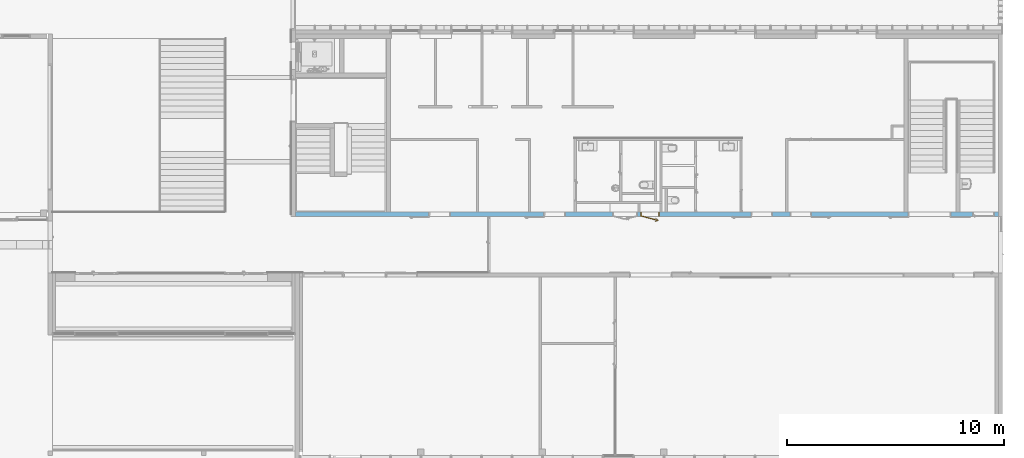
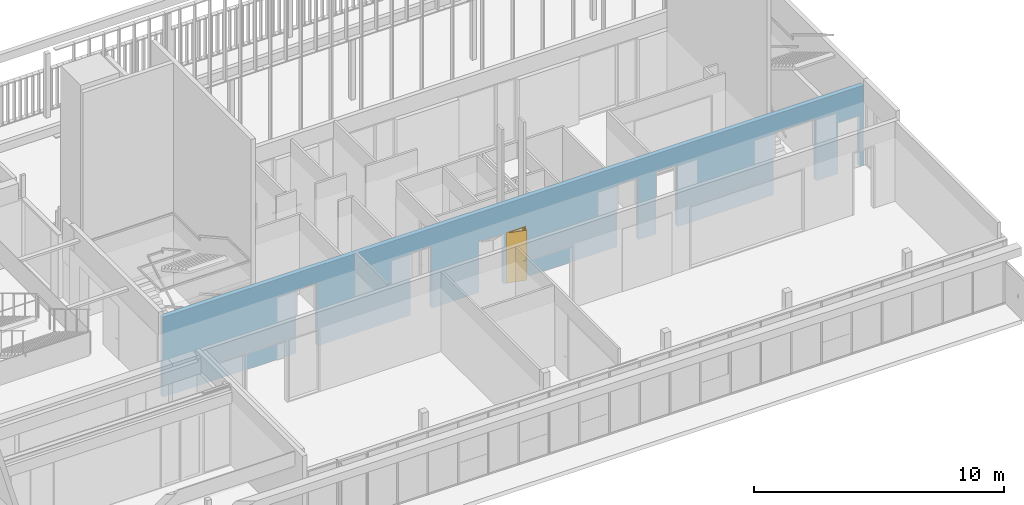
# One storey, part 167 of 240: 1 door, 8 openings, plus 1 element that does not belong to this part.
"""IFC2X3 building model written with IfcOpenShell, lengths in centimetres."""

from ifc_helpers import new_model, entity, si_unit, converted_unit, derived_unit, direction, frame, frame_2d, origin, place, context, subcontext, project, spatial, polyline, rectangle, extrude, clip, bounded_halfspace, faceted_brep, source, transform, mapped, material, material_list, layer, layer_set, layer_usage, type_object, type_shapes, element, fill, save


model = new_model("IFC2X3")

# Units and contexts
model_context = context("Model", 3, precision=0.001, world=origin(), true_north=direction((6.12303176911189e-17, 1.0)))
body_context = subcontext(model_context, "Body", "Model", "MODEL_VIEW")
ifc_project = project(units=[si_unit("LENGTHUNIT", "METRE", prefix="CENTI"), si_unit("AREAUNIT", "SQUARE_METRE"), si_unit("VOLUMEUNIT", "CUBIC_METRE"), converted_unit("PLANEANGLEUNIT", "DEGREE", entity("IfcRatioMeasure", 0.0174532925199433), si_unit("PLANEANGLEUNIT", "RADIAN"), dimensions=[0, 0, 0, 0, 0, 0, 0]), si_unit("MASSUNIT", "GRAM", prefix="KILO"), derived_unit("MASSDENSITYUNIT", [(si_unit("MASSUNIT", "GRAM", prefix="KILO"), 1), (si_unit("LENGTHUNIT", "METRE"), -3)]), si_unit("TIMEUNIT", "SECOND"), si_unit("FREQUENCYUNIT", "HERTZ"), si_unit("THERMODYNAMICTEMPERATUREUNIT", "DEGREE_CELSIUS"), derived_unit("THERMALTRANSMITTANCEUNIT", [(si_unit("MASSUNIT", "GRAM", prefix="KILO"), 1), (si_unit("THERMODYNAMICTEMPERATUREUNIT", "KELVIN"), -1), (si_unit("TIMEUNIT", "SECOND"), -3)]), derived_unit("VOLUMETRICFLOWRATEUNIT", [(si_unit("LENGTHUNIT", "METRE"), 3), (si_unit("TIMEUNIT", "SECOND"), -1)]), si_unit("ELECTRICCURRENTUNIT", "AMPERE"), si_unit("ELECTRICVOLTAGEUNIT", "VOLT"), si_unit("POWERUNIT", "WATT"), si_unit("FORCEUNIT", "NEWTON", prefix="KILO"), si_unit("ILLUMINANCEUNIT", "LUX"), si_unit("LUMINOUSFLUXUNIT", "LUMEN"), si_unit("LUMINOUSINTENSITYUNIT", "CANDELA"), derived_unit("USERDEFINED", [(si_unit("MASSUNIT", "GRAM", prefix="KILO"), -1), (si_unit("LENGTHUNIT", "METRE"), -2), (si_unit("TIMEUNIT", "SECOND"), 3), (si_unit("LUMINOUSFLUXUNIT", "LUMEN"), 1)]), derived_unit("LINEARVELOCITYUNIT", [(si_unit("LENGTHUNIT", "METRE"), 1), (si_unit("TIMEUNIT", "SECOND"), -1)]), si_unit("PRESSUREUNIT", "PASCAL"), derived_unit("USERDEFINED", [(si_unit("LENGTHUNIT", "METRE"), -2), (si_unit("MASSUNIT", "GRAM", prefix="KILO"), 1), (si_unit("TIMEUNIT", "SECOND"), -2)])], contexts=[model_context])

# Site, building, storey
site_placement = place(None, frame((-2781.94577612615, 7442.24238424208, 0.0)))
site = spatial("IfcSite", under=ifc_project, at=site_placement, Name="Default", CompositionType="ELEMENT")
building_placement = place(site_placement, origin())
building = spatial("IfcBuilding", under=site, at=building_placement, CompositionType="ELEMENT")
storey_placement = place(building_placement, origin())
storey = spatial("IfcBuildingStorey", under=building, at=storey_placement, Name="N00 - COO", CompositionType="ELEMENT", Elevation=0.0)

# Wall, openings, door
ifc_material_1 = material(Name="01 - Maçonnerie")
ifc_layer = layer(ifc_material_1, 20.0)
ifc_layer_set = layer_set([ifc_layer], Name="Mur de base:04 - Structure - béton - 20cm")
ifc_layer_usage = layer_usage(ifc_layer_set, "AXIS2", "NEGATIVE", 10.0)
wall_type = type_object("IfcWallType", Name="Mur de base:04 - Structure - béton - 20cm", PredefinedType="STANDARD", material=ifc_layer_set)
wall_placement = place(building_placement, frame((-3647.99987968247, -1920.07903364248, 0.0)))
wall = element("IfcWallStandardCase", 1, at=wall_placement, inside=storey, type_object=wall_type, material=ifc_layer_usage, Name="Mur de base:04 - Structure - béton - 20cm", ObjectType="Mur de base:04 - Structure - béton - 20cm", context=body_context, shape_type="Clipping", body=[
    clip(extrude(rectangle(XDim=3237.99999684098, YDim=19.9999999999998, at=frame_2d((1618.99999842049, -2.66453525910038e-15), x_axis=(-1.0, 0.0))), origin(), (0.0, 0.0, 1.0), 391.0), bounded_halfspace(frame((0.0, -10.0, 391.0), z_axis=(0.0, 0.0, -1.0), x_axis=(0.0, 1.0, 0.0)), True, frame((0.0, -10.0, 391.0)), polyline([(0.0, 0.0), (3238.0, 0.0), (3238.0, 20.0), (3062.69999684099, 20.0), (3042.69999684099, 20.0), (2268.49999684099, 20.0), (2258.49999684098, 20.0), (2058.49999684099, 20.0), (2048.49999684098, 20.0), (1848.49999684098, 20.0), (1838.49999684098, 20.0), (1713.49999684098, 20.0), (1703.49999684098, 20.0), (1293.99999684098, 20.0), (1283.99999684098, 20.0), (1083.99999684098, 20.0), (1073.99999684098, 20.0), (843.999996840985, 20.0), (833.999996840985, 20.0), (438.699996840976, 20.0), (0.0, 20.0), (0.0, 0.0)]))),
])
opening_1_placement = place(wall_placement, frame((3019.69999684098, 10.0, 0.0)))
element("IfcOpeningElement", 2, at=opening_1_placement, cuts=wall, Name="Int. Double:PP (1.90m x 3.00m):1", ObjectType="Opening", context=body_context, shape_type="SweptSolid", body=[
    extrude(rectangle(XDim=304.500000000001, YDim=197.0, at=frame_2d((152.250000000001, 98.5), x_axis=(1.0, 0.0))), frame((0.0, 0.0, 0.0), z_axis=(0.0, -1.0, 0.0), x_axis=(0.0, 0.0, 1.0)), (0.0, 0.0, 1.0), 20.0),
])
opening_2_placement = place(wall_placement, frame((1243.99999684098, 10.0, 0.0)))
element("IfcOpeningElement", 3, at=opening_2_placement, cuts=wall, Name="Int. Simple:PV (0.93m x 3.00m):1", ObjectType="Opening", context=body_context, shape_type="SweptSolid", body=[
    extrude(rectangle(XDim=304.500000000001, YDim=99.9999999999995, at=frame_2d((152.250000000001, 49.9999999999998), x_axis=(1.0, 0.0))), frame((0.0, 0.0, 0.0), z_axis=(0.0, -1.0, 0.0), x_axis=(0.0, 0.0, 1.0)), (0.0, 0.0, 1.0), 20.0),
])
opening_3_placement = place(wall_placement, frame((2198.49999684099, 10.0, 0.0)))
element("IfcOpeningElement", 4, at=opening_3_placement, cuts=wall, Name="Int. Simple:PV (0.93m x 3.00m):1", ObjectType="Opening", context=body_context, shape_type="SweptSolid", body=[
    extrude(rectangle(XDim=304.500000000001, YDim=99.9999999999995, at=frame_2d((152.250000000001, 49.9999999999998), x_axis=(1.0, 0.0))), frame((0.0, 0.0, 0.0), z_axis=(0.0, -1.0, 0.0), x_axis=(0.0, 0.0, 1.0)), (0.0, 0.0, 1.0), 20.0),
])
opening_4_placement = place(wall_placement, frame((713.999996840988, 10.0, 0.0)))
element("IfcOpeningElement", 5, at=opening_4_placement, cuts=wall, Name="Int. Simple:PP (0.93m x 3.06m):1", ObjectType="Opening", context=body_context, shape_type="SweptSolid", body=[
    extrude(rectangle(XDim=309.500000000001, YDim=99.9999999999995, at=frame_2d((154.750000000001, 49.9999999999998), x_axis=(1.0, 0.0))), frame((0.0, 0.0, 0.0), z_axis=(0.0, -1.0, 0.0), x_axis=(0.0, 0.0, 1.0)), (0.0, 0.0, 1.0), 20.0),
])
opening_5_placement = place(wall_placement, frame((1576.99999684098, 10.0, 0.0)))
element("IfcOpeningElement", 6, at=opening_5_placement, cuts=wall, Name="Int. Double:PP Placard (1.10m x 2.50m):1", ObjectType="Opening", context=body_context, shape_type="SweptSolid", body=[
    extrude(rectangle(XDim=248.500000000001, YDim=117.0, at=frame_2d((124.250000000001, 58.5000000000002), x_axis=(1.0, 0.0))), frame((0.0, 0.0, 0.0), z_axis=(0.0, -1.0, 0.0), x_axis=(0.0, 0.0, 1.0)), (0.0, 0.0, 1.0), 20.0),
])
opening_6_placement = place(wall_placement, frame((1677.0, 10.0, 0.0)))
opening_6 = element("IfcOpeningElement", 7, at=opening_6_placement, cuts=wall, Name="Int. Simple:PP Placard (0.80m x 2.50m):1", ObjectType="Opening", context=body_context, shape_type="SweptSolid", body=[
    extrude(rectangle(XDim=248.500000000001, YDim=86.9999999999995, at=frame_2d((124.250000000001, 43.4999999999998), x_axis=(1.0, 0.0))), frame((0.0, 0.0, 0.0), z_axis=(0.0, -1.0, 0.0), x_axis=(0.0, 0.0, 1.0)), (0.0, 0.0, 1.0), 20.0),
])
opening_7_placement = place(wall_placement, frame((2378.49999684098, 10.0, 0.0)))
element("IfcOpeningElement", 8, at=opening_7_placement, cuts=wall, Name="Int. Simple:PV (0.93m x 3.00m):1", ObjectType="Opening", context=body_context, shape_type="SweptSolid", body=[
    extrude(rectangle(XDim=304.500000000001, YDim=99.9999999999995, at=frame_2d((152.250000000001, 49.9999999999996), x_axis=(1.0, 0.0))), frame((0.0, 0.0, 0.0), z_axis=(0.0, -1.0, 0.0), x_axis=(0.0, 0.0, 1.0)), (0.0, 0.0, 1.0), 20.0),
])
opening_8_placement = place(wall_placement, frame((3220.0, 10.0, 0.0)))
element("IfcOpeningElement", 9, at=opening_8_placement, cuts=wall, Name="Int. Simple:PP simple (0.93m x 2.50m):1", ObjectType="Opening", context=body_context, shape_type="SweptSolid", body=[
    extrude(rectangle(XDim=248.500000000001, YDim=99.9999999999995, at=frame_2d((124.250000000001, 49.9999999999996), x_axis=(1.0, 0.0))), frame((0.0, 0.0, 0.0), z_axis=(0.0, -1.0, 0.0), x_axis=(0.0, 0.0, 1.0)), (0.0, 0.0, 1.0), 20.0),
])
ifc_material_2 = material(Name="Finition Peinture - Blanc satiné")
ifc_material_3 = material(Name="Bois - Panneau de porte")
ifc_material_4 = material(Name="Bois - Cadre de porte")
ifc_material_list_1 = material_list([ifc_material_2, ifc_material_3, ifc_material_4])
ifc_material_list_2 = material_list([ifc_material_2, ifc_material_3, ifc_material_4])
door_style = type_object("IfcDoorStyle", Name="PP Placard (0.80m x 2.50m)", ConstructionType="NOTDEFINED", OperationType="SINGLE_SWING_RIGHT", ParameterTakesPrecedence=False, Sizeable=False, material=ifc_material_list_2)
shared_shape = source(origin(), body_context, "Body", "Brep", [
    faceted_brep([(83.7809532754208, -20.1532103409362, 87.0), (83.7809532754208, -20.1532103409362, 108.0), (82.8491016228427, -19.9035214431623, 108.399601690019), (81.8491016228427, -19.6355722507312, 108.535898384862), (80.8491016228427, -19.3676230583, 108.399601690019), (79.9172499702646, -19.1179341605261, 108.0), (79.9172499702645, -19.1179341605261, 87.0), (80.8491016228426, -19.3676230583, 86.6003983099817), (81.8491016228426, -19.6355722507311, 86.464101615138), (82.8491016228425, -19.9035214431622, 86.6003983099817), (83.910362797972, -19.6702474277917, 108.0), (83.9103627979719, -19.6702474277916, 87.0), (82.9785111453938, -19.4205585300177, 86.6003983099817), (81.9785111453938, -19.1526093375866, 86.464101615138), (80.9785111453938, -18.8846601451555, 86.6003983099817), (80.0466594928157, -18.6349712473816, 87.0), (80.0466594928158, -18.6349712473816, 108.0), (80.978511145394, -18.8846601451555, 108.399601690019), (81.9785111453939, -19.1526093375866, 108.535898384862), (82.9785111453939, -19.4205585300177, 108.399601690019)], [[[0, 1, 2, 3, 4, 5, 6, 7, 8, 9]], [[10, 11, 12, 13, 14, 15, 16, 17, 18, 19]], [[9, 12, 11, 0]], [[8, 13, 12, 9]], [[7, 14, 13, 8]], [[7, 6, 15, 14]], [[15, 6, 5, 16]], [[4, 17, 16, 5]], [[3, 18, 17, 4]], [[2, 19, 18, 3]], [[2, 1, 10, 19]], [[11, 10, 1, 0]]]),
    faceted_brep([(84.9456389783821, -15.8065441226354, 87.0), (84.9456389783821, -15.8065441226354, 108.0), (84.013787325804, -15.5568552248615, 108.399601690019), (83.013787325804, -15.2889060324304, 108.535898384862), (82.0137873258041, -15.0209568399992, 108.399601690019), (81.0819356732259, -14.7712679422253, 108.0), (81.0819356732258, -14.7712679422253, 87.0), (82.0137873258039, -15.0209568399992, 86.6003983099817), (83.0137873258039, -15.2889060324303, 86.464101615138), (84.0137873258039, -15.5568552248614, 86.6003983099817), (83.1431968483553, -14.8059431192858, 108.535898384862), (84.1431968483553, -15.0738923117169, 108.399601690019), (85.0750485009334, -15.3235812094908, 108.0), (85.0750485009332, -15.3235812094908, 87.0), (84.1431968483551, -15.0738923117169, 86.6003983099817), (83.1431968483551, -14.8059431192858, 86.464101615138), (82.1431968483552, -14.5379939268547, 86.6003983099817), (81.211345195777, -14.2883050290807, 87.0), (81.2113451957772, -14.2883050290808, 108.0), (82.1431968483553, -14.5379939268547, 108.399601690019)], [[[0, 1, 2, 3, 4, 5, 6, 7, 8, 9]], [[10, 11, 12, 13, 14, 15, 16, 17, 18, 19]], [[4, 19, 18, 5]], [[3, 10, 19, 4]], [[2, 11, 10, 3]], [[2, 1, 12, 11]], [[13, 12, 1, 0]], [[9, 14, 13, 0]], [[8, 15, 14, 9]], [[7, 16, 15, 8]], [[7, 6, 17, 16]], [[17, 6, 5, 18]]]),
    faceted_brep([(81.6534727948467, -19.5831536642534, 100.778044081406), (82.0447304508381, -19.6879908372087, 100.778044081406), (82.4286571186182, -19.7908636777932, 100.699999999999), (82.4286571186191, -19.7908636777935, 99.2999999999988), (82.0447304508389, -19.687990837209, 99.221955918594), (81.6534727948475, -19.5831536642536, 99.2219559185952), (81.2695461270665, -19.4802808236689, 99.3000000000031), (81.2695461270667, -19.4802808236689, 100.7), (81.3716825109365, -22.1998399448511, 100.778044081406), (81.7129978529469, -22.4617404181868, 100.7), (81.0238498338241, -21.9329385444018, 100.778044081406), (79.3488766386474, -22.8999847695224, 100.778044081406), (79.4061036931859, -23.3346674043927, 100.778044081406), (80.682534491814, -21.6710380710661, 100.7), (80.6825344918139, -21.671038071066, 99.3000000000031), (81.0238498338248, -21.9329385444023, 99.2219559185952), (81.3716825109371, -22.1998399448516, 99.221955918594), (79.406103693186, -23.3346674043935, 99.221955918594), (79.3488766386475, -22.8999847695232, 99.2219559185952), (81.7129978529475, -22.4617404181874, 99.2999999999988), (79.4622584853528, -23.7612053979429, 100.7), (79.2927218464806, -22.4734467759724, 100.7), (79.2927218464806, -22.4734467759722, 99.3000000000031), (79.4622584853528, -23.7612053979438, 99.2999999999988), (70.9967463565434, -21.4928782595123, 100.7), (71.0996191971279, -21.1089515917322, 100.778044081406), (71.2044563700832, -20.7176939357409, 100.778044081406), (71.3073292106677, -20.3337672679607, 100.699999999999), (71.3073292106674, -20.3337672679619, 99.3000000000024), (71.204456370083, -20.7176939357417, 99.2219559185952), (71.0996191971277, -21.108951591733, 99.221955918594), (70.9967463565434, -21.4928782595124, 99.2999999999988), (75.2242479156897, -22.0044681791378, 100.78786867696), (75.6052695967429, -22.727728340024, 100.7), (75.3000255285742, -21.4036070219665, 100.7), (75.3000255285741, -21.4036070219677, 99.3000000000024), (75.2242479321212, -22.0044681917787, 99.2121313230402), (75.6052703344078, -22.7277285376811, 99.2999999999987)], [[[0, 1, 2, 3, 4, 5, 6, 7]], [[2, 1, 8, 9]], [[1, 0, 10, 11, 12, 8]], [[0, 7, 13, 10]], [[14, 13, 7, 6]], [[5, 15, 14, 6]], [[5, 4, 16, 17, 18, 15]], [[3, 19, 16, 4]], [[9, 19, 3, 2]], [[9, 8, 12, 20]], [[10, 13, 21, 11]], [[22, 21, 13, 14]], [[14, 15, 18, 22]], [[16, 19, 23, 17]], [[20, 23, 19, 9]], [[24, 25, 26, 27, 28, 29, 30, 31]], [[32, 25, 33]], [[33, 25, 24]], [[33, 20, 12]], [[11, 34, 32]], [[34, 11, 21]], [[27, 26, 34]], [[32, 26, 25]], [[32, 34, 26]], [[32, 33, 12]], [[11, 32, 12]], [[21, 22, 35, 28, 27, 34]], [[36, 29, 35]], [[30, 36, 37]], [[18, 35, 22]], [[29, 28, 35]], [[30, 37, 31]], [[37, 17, 23]], [[36, 17, 37]], [[36, 18, 17]], [[36, 35, 18]], [[29, 36, 30]], [[23, 20, 33, 24, 31, 37]]]),
    faceted_brep([(82.9475680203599, -14.7535245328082, 99.2219559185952), (83.3388256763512, -14.8583617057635, 99.221955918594), (83.7227523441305, -14.9612345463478, 99.2999999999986), (83.7227523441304, -14.9612345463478, 100.7), (83.3388256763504, -14.8583617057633, 100.778044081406), (82.947568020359, -14.7535245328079, 100.778044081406), (82.5636413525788, -14.6506516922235, 100.7), (82.56364135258, -14.6506516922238, 99.3000000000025), (83.1456012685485, -12.4787477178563, 100.7), (83.1456012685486, -12.4787477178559, 99.3000000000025), (83.5721392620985, -12.4225929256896, 100.778044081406), (84.0068218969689, -12.365365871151, 100.778044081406), (82.8622711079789, -10.3829457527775, 100.778044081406), (82.5953697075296, -10.7307784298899, 100.778044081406), (84.4333598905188, -12.3092110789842, 100.7), (84.433359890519, -12.3092110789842, 99.2999999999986), (84.0068218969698, -12.3653658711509, 99.221955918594), (83.5721392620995, -12.4225929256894, 99.2219559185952), (82.5953697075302, -10.7307784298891, 99.2219559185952), (82.8622711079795, -10.3829457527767, 99.221955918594), (82.3334692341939, -11.0720937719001, 100.7), (82.3334692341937, -11.0720937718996, 99.3000000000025), (83.1241715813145, -10.0416304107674, 100.7), (83.1241715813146, -10.0416304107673, 99.2999999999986), (74.461609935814, -8.55134406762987, 100.778044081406), (74.5664471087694, -8.16008641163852, 100.778044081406), (74.6693199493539, -7.77615974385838, 100.7), (74.6693199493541, -7.77615974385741, 99.2999999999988), (74.5664471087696, -8.16008641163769, 99.221955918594), (74.4616099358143, -8.55134406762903, 99.2219559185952), (74.3587370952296, -8.93527073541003, 99.3000000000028), (74.3587370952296, -8.93527073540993, 100.7), (78.3461031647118, -10.003682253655, 100.7), (78.3461043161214, -10.0036825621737, 99.3000000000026), (78.5809084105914, -9.4454324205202, 100.78786867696), (79.2671827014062, -9.00815335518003, 100.7), (79.2671828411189, -9.00815339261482, 99.2999999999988), (78.5809083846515, -9.44543242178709, 99.2121313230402)], [[[0, 1, 2, 3, 4, 5, 6, 7]], [[8, 9, 7, 6]], [[5, 10, 8, 6]], [[5, 4, 11, 12, 13, 10]], [[3, 14, 11, 4]], [[14, 3, 2, 15]], [[2, 1, 16, 15]], [[1, 0, 17, 18, 19, 16]], [[0, 7, 9, 17]], [[20, 21, 9, 8]], [[8, 10, 13, 20]], [[14, 22, 12, 11]], [[23, 22, 14, 15]], [[15, 16, 19, 23]], [[17, 9, 21, 18]], [[24, 25, 26, 27, 28, 29, 30, 31]], [[21, 20, 32, 31, 30, 33]], [[34, 24, 32]], [[25, 34, 35]], [[13, 32, 20]], [[24, 31, 32]], [[25, 35, 26]], [[35, 12, 22]], [[34, 12, 35]], [[34, 13, 12]], [[34, 32, 13]], [[24, 34, 25]], [[22, 23, 36, 27, 26, 35]], [[37, 28, 36]], [[36, 28, 27]], [[36, 23, 19]], [[18, 33, 37]], [[33, 18, 21]], [[30, 29, 33]], [[37, 29, 28]], [[37, 33, 29]], [[37, 36, 19]], [[18, 37, 19]]]),
    faceted_brep([(88.8093422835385, -16.8418203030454, 245.0), (88.8093422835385, -16.8418203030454, 0.0), (11.535276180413, 3.86370330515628, 0.0), (11.535276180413, 3.86370330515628, 245.0), (87.7740661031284, -20.7055236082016, 245.0), (10.5000000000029, 0.0, 245.0), (10.5000000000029, 0.0, 0.0), (87.7740661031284, -20.7055236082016, 0.0)], [[[0, 1, 2, 3]], [[4, 5, 6, 7]], [[3, 5, 4, 0]], [[2, 6, 5, 3]], [[1, 7, 6, 2]], [[0, 4, 7, 1]]]),
    faceted_brep([(94.0, 20.0, 0.0), (94.0, 0.0, 0.0), (95.500000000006, 0.0, 0.0), (95.500000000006, -0.500000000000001, 0.0), (90.5000000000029, -0.500000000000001, 0.0), (90.5000000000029, 4.0, 0.0), (89.0, 4.0, 0.0), (89.0, 20.5000000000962, 0.0), (95.5000000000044, 20.5000000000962, 0.0), (95.5000000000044, 20.0, 0.0), (94.0, 20.0, 248.500000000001), (94.0, 0.0, 248.500000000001), (95.5000000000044, 20.0, 250.0), (5.50000000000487, 20.0, 250.0), (5.50000000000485, 20.0, 0.0), (7.0, 20.0, 0.0), (7.0, 20.0, 248.500000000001), (89.0, 4.0, 243.5), (89.0, 20.5000000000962, 243.5), (90.5000000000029, 4.0, 245.0), (10.5000000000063, 4.0, 245.0), (10.5000000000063, 4.0, 0.0), (12.0, 4.0, 0.0), (12.0, 4.0, 243.5), (7.0, 0.0, 0.0), (7.0, 0.0, 248.500000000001), (5.50000000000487, 20.5000000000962, 0.0), (12.0, 20.5000000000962, 0.0), (10.5000000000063, -0.500000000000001, 0.0), (5.5000000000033, -0.500000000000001, 0.0), (5.5000000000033, 0.0, 0.0), (12.0, 20.5000000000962, 243.5), (90.5000000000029, -0.500000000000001, 245.0), (95.500000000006, -0.500000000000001, 250.0), (5.5000000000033, -0.500000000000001, 250.0), (10.5000000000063, -0.500000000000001, 245.0), (95.500000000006, 0.0, 250.0), (5.5000000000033, 0.0, 250.0), (95.5000000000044, 20.5000000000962, 250.0), (5.50000000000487, 20.5000000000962, 250.0)], [[[0, 1, 2, 3, 4, 5, 6, 7, 8, 9]], [[0, 10, 11, 1]], [[9, 12, 13, 14, 15, 16, 10, 0]], [[7, 6, 17, 18]], [[5, 19, 20, 21, 22, 23, 17, 6]], [[16, 15, 24, 25]], [[15, 14, 26, 27, 22, 21, 28, 29, 30, 24]], [[23, 22, 27, 31]], [[10, 16, 25, 11]], [[17, 23, 31, 18]], [[5, 4, 32, 19]], [[3, 33, 34, 29, 28, 35, 32, 4]], [[2, 36, 33, 3]], [[1, 11, 25, 24, 30, 37, 36, 2]], [[8, 38, 12, 9]], [[7, 18, 31, 27, 26, 39, 38, 8]], [[35, 28, 21, 20]], [[37, 30, 29, 34]], [[39, 26, 14, 13]], [[32, 35, 20, 19]], [[36, 37, 34, 33]], [[38, 39, 13, 12]]]),
])
type_shapes(door_style, [shared_shape])
door_placement = place(opening_6_placement, frame((-94.0000031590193, -20.0, 0.0)))
door = element("IfcDoor", 10, at=door_placement, inside=storey, type_object=door_style, material=ifc_material_list_1, Name="Int. Simple:PP Placard (0.80m x 2.50m)", ObjectType="Int. Simple:PP Placard (0.80m x 2.50m)", OverallHeight=248.500000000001, OverallWidth=86.9999999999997, context=body_context, shape_type="MappedRepresentation", body=[
    mapped(shared_shape, transform((0.0, 0.0, 0.0), scale=1.0)),
])
fill(opening_6, door)

save(model, "model.ifc")
